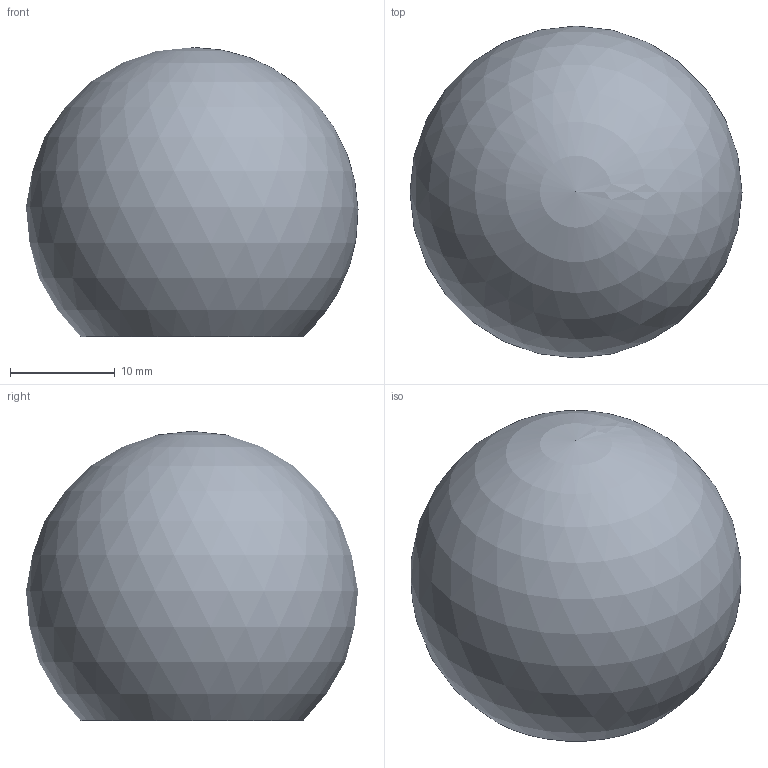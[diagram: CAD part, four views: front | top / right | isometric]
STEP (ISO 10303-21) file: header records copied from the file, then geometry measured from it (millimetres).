
FILE_DESCRIPTION( ('This file contains a STEP AP42 implementation' ,'as created by ZW3D STEP Interface translator.') ,'2;1' );
FILE_NAME( 'Galka kulista DK32 typA.stp' ,'26 331. 94840', (''), ('ZWCAD Software Co.'), 'Version 1.0', 'ZW3D to STEP translator', '' );
FILE_SCHEMA(('AP242_MANAGED_MODEL_BASED_3D_ENGINEERING_MIM_LF { 1 0 10303 442 1 1 4 }'));
Length unit declared in the file: millimetre
Products named in the file (1): 0
Bounding box: 31.73 x 31.73 x 27.65 mm (x, y, z)
Volume: 15675.8 mm3; surface area: 4798.3 mm2
Topology: 2 solids, 2 shells, 17 faces, 30 edges, 17 vertices
Faces by surface type: cylinder 6, cone 6, plane 4, sphere 1
Full cylindrical faces by diameter (mm): 5 x2, 9.8 x2, 11.8 x2
Entity records: 433 total; most frequent: DIRECTION 80, CARTESIAN_POINT 63, ORIENTED_EDGE 56, AXIS2_PLACEMENT_3D 34, EDGE_CURVE 28, EDGE_LOOP 19, VERTEX_POINT 17, FACE_OUTER_BOUND 17
